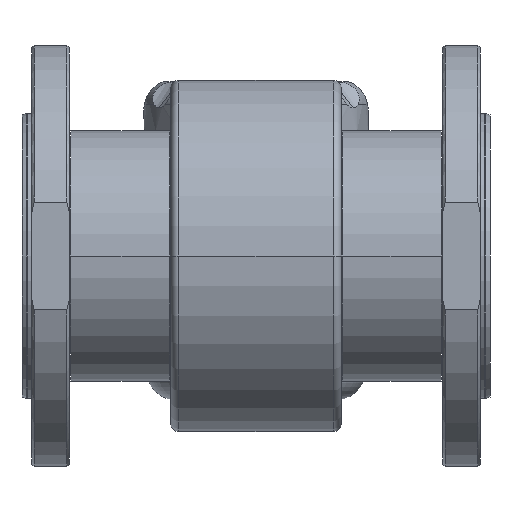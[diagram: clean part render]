
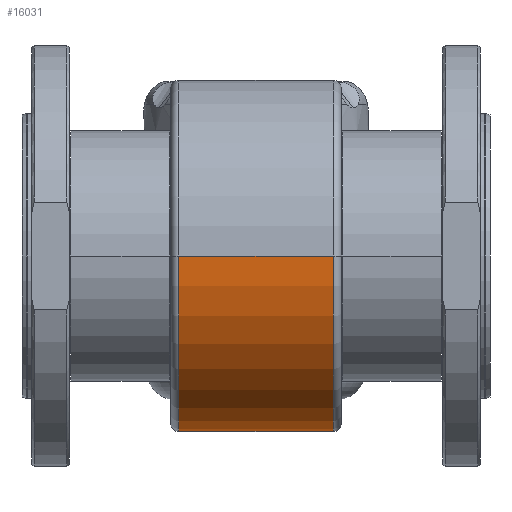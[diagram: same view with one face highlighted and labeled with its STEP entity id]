
A CAD part, front view. The second image highlights one B-rep face of the part: STEP entity #16031.
In plain terms, the highlighted cylindrical face has radius 75 mm (diameter 150 mm), a partial arc.
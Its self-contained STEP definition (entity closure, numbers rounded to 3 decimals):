
#592 = DIRECTION ( 'NONE',  ( -1., 0., 0. ) ) ;
#4044 = VECTOR ( 'NONE', #592, 1000. ) ;
#4184 = CARTESIAN_POINT ( 'NONE',  ( 33., 0., 0. ) ) ;
#4378 = DIRECTION ( 'NONE',  ( 0., -1., 0. ) ) ;
#4987 = VERTEX_POINT ( 'NONE', #26051 ) ;
#5160 = CARTESIAN_POINT ( 'NONE',  ( -33., 0., -75. ) ) ;
#5493 = CYLINDRICAL_SURFACE ( 'NONE', #16341, 75. ) ;
#6198 = ORIENTED_EDGE ( 'NONE', *, *, #25446, .T. ) ;
#6221 = DIRECTION ( 'NONE',  ( 0., -1., 0. ) ) ;
#6222 = ORIENTED_EDGE ( 'NONE', *, *, #14612, .T. ) ;
#6526 = DIRECTION ( 'NONE',  ( -1., 0., 0. ) ) ;
#6546 = ORIENTED_EDGE ( 'NONE', *, *, #11903, .F. ) ;
#6597 = ORIENTED_EDGE ( 'NONE', *, *, #7751, .F. ) ;
#6920 = CARTESIAN_POINT ( 'NONE',  ( -187.842, -75., 0. ) ) ;
#7376 = FACE_OUTER_BOUND ( 'NONE', #16985, .T. ) ;
#7751 = EDGE_CURVE ( 'NONE', #4987, #24110, #16067, .T. ) ;
#8650 = VERTEX_POINT ( 'NONE', #18812 ) ;
#9798 = CIRCLE ( 'NONE', #12137, 75. ) ;
#10964 = CIRCLE ( 'NONE', #10969, 75. ) ;
#10969 = AXIS2_PLACEMENT_3D ( 'NONE', #4184, #18452, #6221 ) ;
#11903 = EDGE_CURVE ( 'NONE', #24110, #14798, #9798, .T. ) ;
#12137 = AXIS2_PLACEMENT_3D ( 'NONE', #18750, #6526, #20770 ) ;
#14612 = EDGE_CURVE ( 'NONE', #8650, #14798, #19648, .T. ) ;
#14798 = VERTEX_POINT ( 'NONE', #20353 ) ;
#14960 = DIRECTION ( 'NONE',  ( -1., 0., 0. ) ) ;
#16031 = ADVANCED_FACE ( 'NONE', ( #7376 ), #5493, .T. ) ;
#16067 = LINE ( 'NONE', #5160, #26103 ) ;
#16341 = AXIS2_PLACEMENT_3D ( 'NONE', #16614, #26172, #4378 ) ;
#16614 = CARTESIAN_POINT ( 'NONE',  ( -187.842, 0., 0. ) ) ;
#16985 = EDGE_LOOP ( 'NONE', ( #6198, #6222, #6546, #6597 ) ) ;
#18452 = DIRECTION ( 'NONE',  ( -1., 0., 0. ) ) ;
#18750 = CARTESIAN_POINT ( 'NONE',  ( -33., 0., 0. ) ) ;
#18812 = CARTESIAN_POINT ( 'NONE',  ( 33., -75., 0. ) ) ;
#19648 = LINE ( 'NONE', #6920, #4044 ) ;
#20353 = CARTESIAN_POINT ( 'NONE',  ( -33., -75., 0. ) ) ;
#20770 = DIRECTION ( 'NONE',  ( 0., -1., 0. ) ) ;
#24110 = VERTEX_POINT ( 'NONE', #25028 ) ;
#25028 = CARTESIAN_POINT ( 'NONE',  ( -33., 0., -75. ) ) ;
#25446 = EDGE_CURVE ( 'NONE', #4987, #8650, #10964, .T. ) ;
#26051 = CARTESIAN_POINT ( 'NONE',  ( 33., 0., -75. ) ) ;
#26103 = VECTOR ( 'NONE', #14960, 1000. ) ;
#26172 = DIRECTION ( 'NONE',  ( -1., 0., 0. ) ) ;
